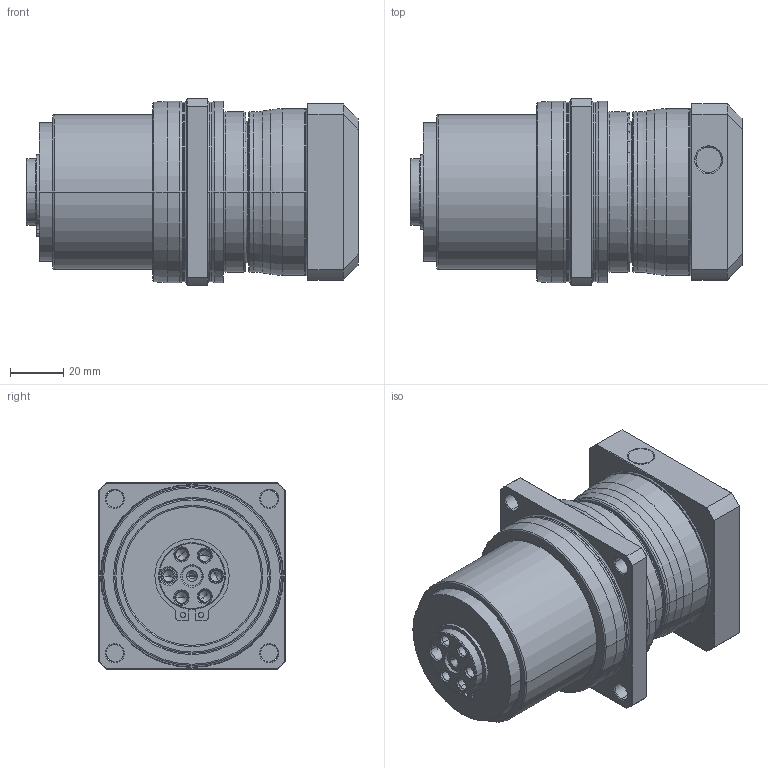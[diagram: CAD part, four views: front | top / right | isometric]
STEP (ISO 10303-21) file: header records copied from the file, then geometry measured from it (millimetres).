
FILE_DESCRIPTION((''),'2;1');
FILE_NAME('PL070_2ST_14-P0411300101_ASM','2016-06-04T',('d00435'),(''),'PRO/ENGINEER BY PARAMETRIC TECHNOLOGY CORPORATION, 2008410','PRO/ENGINEER BY PARAMETRIC TECHNOLOGY CORPORATION, 2008410','');
FILE_SCHEMA(('CONFIG_CONTROL_DESIGN'));
Length unit declared in the file: millimetre
Products named in the file (10): P0272200001; P1356200001; P0366200001; P0274200001; P1324200201; 22802000015; P0941202001; P0503300005; P0411300101; PL070_2ST_14-P0411300101_ASM
Assembly tree (9 placements, depth 2):
  PL070_2ST_14-P0411300101_ASM
    P0272200001
    P1356200001
    P0366200001
    P0274200001
    P1324200201
    22802000015
    P0941202001
    P0503300005
    P0411300101
Bounding box: 124.5 x 70 x 70 mm (x, y, z)
Volume: 320557.6 mm3; surface area: 94275.9 mm2
Topology: 9 solids, 24 shells, 544 faces, 1246 edges, 733 vertices
Faces by surface type: cone 174, cylinder 167, plane 101, torus 86, bspline 16
Entity records: 19856 total; most frequent: CARTESIAN_POINT 7298, DIRECTION 2859, ORIENTED_EDGE 2356, AXIS2_PLACEMENT_3D 1217, EDGE_CURVE 1208, VERTEX_POINT 733, CIRCLE 662, EDGE_LOOP 619
